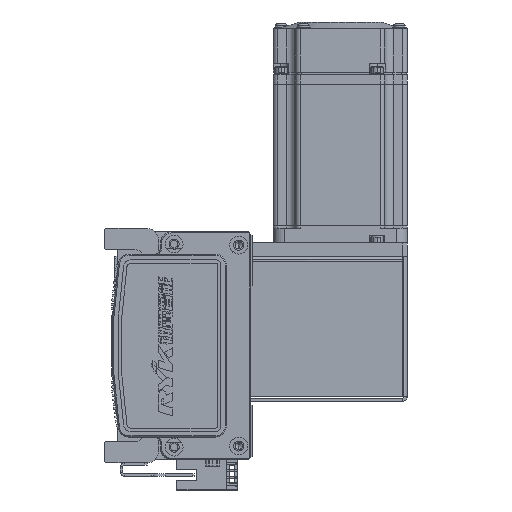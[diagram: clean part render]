
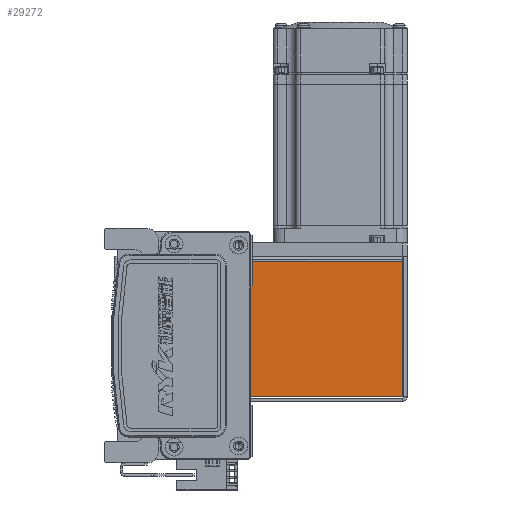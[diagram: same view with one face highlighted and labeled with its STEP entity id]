
A CAD part, left-side view. The second image highlights one B-rep face of the part: STEP entity #29272.
In plain terms, the highlighted planar face has unit normal (-1, 0, 0) as drawn and (0, 0, 1) by its records, which use the part's own axes.
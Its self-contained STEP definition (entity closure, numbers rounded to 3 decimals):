
#455 = DIRECTION ( 'NONE',  ( 0., 1., 0. ) ) ;
#882 = CARTESIAN_POINT ( 'NONE',  ( 30.263, 0.737, 35. ) ) ;
#2097 = EDGE_CURVE ( 'NONE', #7886, #52254, #63534, .T. ) ;
#2392 = CARTESIAN_POINT ( 'NONE',  ( -30.293, 0., 35. ) ) ;
#4013 = DIRECTION ( 'NONE',  ( 0., 0., -1. ) ) ;
#5676 = VECTOR ( 'NONE', #11479, 1000. ) ;
#5936 = DIRECTION ( 'NONE',  ( -1., 0., 0. ) ) ;
#6688 = LINE ( 'NONE', #44957, #60124 ) ;
#7886 = VERTEX_POINT ( 'NONE', #882 ) ;
#11464 = ORIENTED_EDGE ( 'NONE', *, *, #15459, .F. ) ;
#11479 = DIRECTION ( 'NONE',  ( -1., 0., 0. ) ) ;
#11815 = LINE ( 'NONE', #2392, #23021 ) ;
#13578 = DIRECTION ( 'NONE',  ( -1., 0., 0. ) ) ;
#15459 = EDGE_CURVE ( 'NONE', #48440, #52737, #11815, .T. ) ;
#16060 = CARTESIAN_POINT ( 'NONE',  ( 30.263, 0.737, 35. ) ) ;
#19478 = EDGE_LOOP ( 'NONE', ( #55279, #38229, #11464, #23849 ) ) ;
#23021 = VECTOR ( 'NONE', #68186, 1000. ) ;
#23849 = ORIENTED_EDGE ( 'NONE', *, *, #31903, .F. ) ;
#29272 = ADVANCED_FACE ( 'NONE', ( #35803 ), #37264, .F. ) ;
#31903 = EDGE_CURVE ( 'NONE', #7886, #48440, #50484, .T. ) ;
#32567 = CARTESIAN_POINT ( 'NONE',  ( -30.293, 72.5, 35. ) ) ;
#35621 = CARTESIAN_POINT ( 'NONE',  ( 0., 0., 35. ) ) ;
#35803 = FACE_OUTER_BOUND ( 'NONE', #19478, .T. ) ;
#37264 = PLANE ( 'NONE',  #70356 ) ;
#38229 = ORIENTED_EDGE ( 'NONE', *, *, #48775, .T. ) ;
#41402 = CARTESIAN_POINT ( 'NONE',  ( -30.293, 0.737, 35. ) ) ;
#44410 = CARTESIAN_POINT ( 'NONE',  ( 30.263, 72.5, 35. ) ) ;
#44957 = CARTESIAN_POINT ( 'NONE',  ( 0., 72.5, 35. ) ) ;
#48440 = VERTEX_POINT ( 'NONE', #41402 ) ;
#48775 = EDGE_CURVE ( 'NONE', #52254, #52737, #6688, .T. ) ;
#50484 = LINE ( 'NONE', #66941, #5676 ) ;
#52254 = VERTEX_POINT ( 'NONE', #44410 ) ;
#52281 = VECTOR ( 'NONE', #455, 1000. ) ;
#52737 = VERTEX_POINT ( 'NONE', #32567 ) ;
#55279 = ORIENTED_EDGE ( 'NONE', *, *, #2097, .T. ) ;
#60124 = VECTOR ( 'NONE', #5936, 1000. ) ;
#63534 = LINE ( 'NONE', #16060, #52281 ) ;
#66941 = CARTESIAN_POINT ( 'NONE',  ( -32.5, 0.737, 35. ) ) ;
#68186 = DIRECTION ( 'NONE',  ( 0., 1., 0. ) ) ;
#70356 = AXIS2_PLACEMENT_3D ( 'NONE', #35621, #4013, #13578 ) ;
